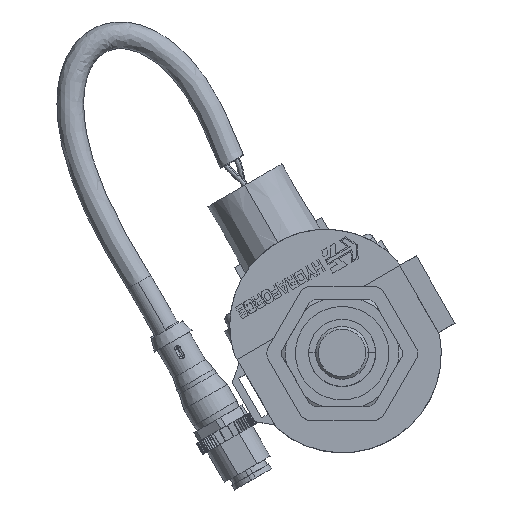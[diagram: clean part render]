
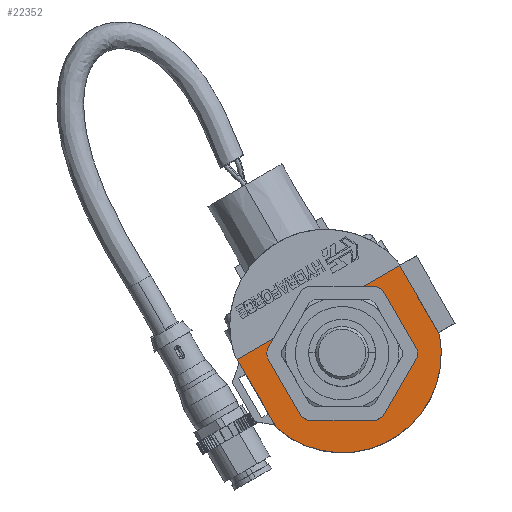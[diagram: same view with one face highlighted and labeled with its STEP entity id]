
A CAD part, top view. The second image highlights one B-rep face of the part: STEP entity #22352.
In plain terms, the highlighted planar face has unit normal (0, 0, 1).
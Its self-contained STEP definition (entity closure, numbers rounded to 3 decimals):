
#4569=DIRECTION('',(-1.,0.,0.));
#4570=VECTOR('',#4569,11.062);
#4571=CARTESIAN_POINT('',(-11.214,11.252,24.384));
#4572=LINE('',#4571,#4570);
#6864=CARTESIAN_POINT('',(0.,0.,24.384));
#6865=DIRECTION('',(0.,0.,1.));
#6866=DIRECTION('',(-0.803,0.596,0.));
#6867=AXIS2_PLACEMENT_3D('',#6864,#6865,#6866);
#6869=CARTESIAN_POINT('',(0.,0.,24.384));
#6870=DIRECTION('',(0.,0.,1.));
#6871=DIRECTION('',(-1.,0.,0.));
#6872=AXIS2_PLACEMENT_3D('',#6869,#6870,#6871);
#6874=CARTESIAN_POINT('',(0.,0.,24.384));
#6875=DIRECTION('',(0.,0.,1.));
#6876=DIRECTION('',(1.,0.,0.));
#6877=AXIS2_PLACEMENT_3D('',#6874,#6875,#6876);
#6879=DIRECTION('',(0.,1.,0.));
#6880=VECTOR('',#6879,2.921);
#6881=CARTESIAN_POINT('',(11.214,8.331,24.384));
#6882=LINE('',#6881,#6880);
#6883=DIRECTION('',(1.,0.,0.));
#6884=VECTOR('',#6883,11.062);
#6885=CARTESIAN_POINT('',(11.214,11.252,24.384));
#6886=LINE('',#6885,#6884);
#6887=DIRECTION('',(0.,-1.,0.));
#6888=VECTOR('',#6887,18.923);
#6889=CARTESIAN_POINT('',(22.276,11.252,24.384));
#6890=LINE('',#6889,#6888);
#6891=CARTESIAN_POINT('',(0.,0.,24.384));
#6892=DIRECTION('',(0.,0.,-1.));
#6893=DIRECTION('',(0.946,-0.326,0.));
#6894=AXIS2_PLACEMENT_3D('',#6891,#6892,#6893);
#6896=DIRECTION('',(0.,1.,0.));
#6897=VECTOR('',#6896,18.923);
#6898=CARTESIAN_POINT('',(-22.276,-7.671,24.384));
#6899=LINE('',#6898,#6897);
#6900=DIRECTION('',(0.,-1.,0.));
#6901=VECTOR('',#6900,2.921);
#6902=CARTESIAN_POINT('',(-11.214,11.252,24.384));
#6903=LINE('',#6902,#6901);
#18292=CARTESIAN_POINT('',(11.214,11.252,24.384));
#18293=CARTESIAN_POINT('',(-11.214,11.252,24.384));
#18294=VERTEX_POINT('',#18292);
#18295=VERTEX_POINT('',#18293);
#18296=CARTESIAN_POINT('',(-22.276,11.252,24.384));
#18297=VERTEX_POINT('',#18296);
#18305=CARTESIAN_POINT('',(22.276,11.252,24.384));
#18306=VERTEX_POINT('',#18305);
#18576=CARTESIAN_POINT('',(-11.214,8.331,24.384));
#18578=VERTEX_POINT('',#18576);
#18585=CARTESIAN_POINT('',(11.214,8.331,24.384));
#18586=VERTEX_POINT('',#18585);
#18774=CARTESIAN_POINT('',(-13.97,0.,24.384));
#18776=VERTEX_POINT('',#18774);
#18815=CARTESIAN_POINT('',(13.97,0.,24.384));
#18816=VERTEX_POINT('',#18815);
#18927=CARTESIAN_POINT('',(22.276,-7.671,24.384));
#18928=VERTEX_POINT('',#18927);
#18929=CARTESIAN_POINT('',(-22.276,-7.671,24.384));
#18930=VERTEX_POINT('',#18929);
#22331=CARTESIAN_POINT('',(0.,11.252,24.384));
#22332=DIRECTION('',(0.,0.,-1.));
#22333=DIRECTION('',(0.,1.,0.));
#22334=AXIS2_PLACEMENT_3D('',#22331,#22332,#22333);
#22335=PLANE('',#22334);
#22336=ORIENTED_EDGE('',*,*,#22216,.T.);
#22337=ORIENTED_EDGE('',*,*,#22039,.T.);
#22338=ORIENTED_EDGE('',*,*,#22160,.T.);
#22340=ORIENTED_EDGE('',*,*,#22339,.T.);
#22341=ORIENTED_EDGE('',*,*,#21129,.T.);
#22343=ORIENTED_EDGE('',*,*,#22342,.T.);
#22345=ORIENTED_EDGE('',*,*,#22344,.T.);
#22347=ORIENTED_EDGE('',*,*,#22346,.T.);
#22348=ORIENTED_EDGE('',*,*,#21117,.F.);
#22349=ORIENTED_EDGE('',*,*,#21491,.T.);
#22350=EDGE_LOOP('',(#22336,#22337,#22338,#22340,#22341,#22343,#22345,#22347,
#22348,#22349));
#22351=FACE_OUTER_BOUND('',#22350,.F.);
#22352=ADVANCED_FACE('',(#22351),#22335,.F.);
#6868=CIRCLE('',#6867,13.97);
#6873=CIRCLE('',#6872,13.97);
#6878=CIRCLE('',#6877,13.97);
#6895=CIRCLE('',#6894,23.56);
#21117=EDGE_CURVE('',#18295,#18297,#4572,.T.);
#21129=EDGE_CURVE('',#18294,#18306,#6886,.T.);
#21491=EDGE_CURVE('',#18295,#18578,#6903,.T.);
#22039=EDGE_CURVE('',#18776,#18816,#6873,.T.);
#22160=EDGE_CURVE('',#18816,#18586,#6878,.T.);
#22216=EDGE_CURVE('',#18578,#18776,#6868,.T.);
#22339=EDGE_CURVE('',#18586,#18294,#6882,.T.);
#22342=EDGE_CURVE('',#18306,#18928,#6890,.T.);
#22344=EDGE_CURVE('',#18928,#18930,#6895,.T.);
#22346=EDGE_CURVE('',#18930,#18297,#6899,.T.);
